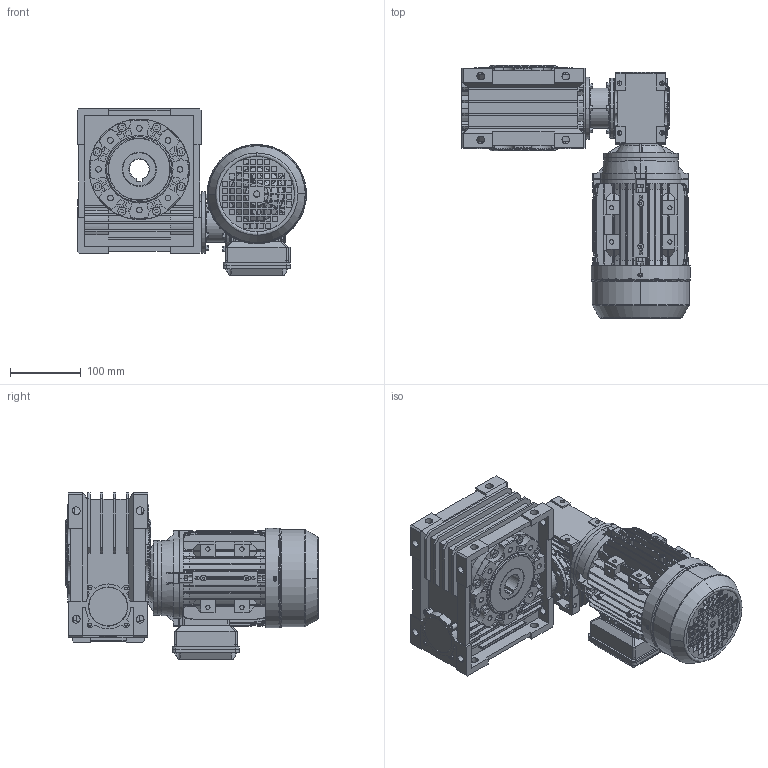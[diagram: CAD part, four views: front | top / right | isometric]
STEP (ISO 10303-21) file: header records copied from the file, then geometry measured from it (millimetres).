
FILE_DESCRIPTION (( 'STEP AP203' ), '1' );
FILE_NAME ('CMRV075-040-MX71.STEP', '2018-12-13T09:16:36', ( '' ), ( '' ), 'SwSTEP 2.0', 'SolidWorks 2012', '' );
FILE_SCHEMA (( 'CONFIG_CONTROL_DESIGN' ));
Length unit declared in the file: millimetre
Products named in the file (18): CMRV075-040-MX71; MX71_B14; Lüfterhaube_MS71; L黤terfl黦el_MS71; Klemmkastenoberteil_MS71; Klemmenkastenunterteil_MS71; B14-Flansch_MS71; B-Lagerschild_MS71; Gehäuse_MS71L; FCENDK40-75-71B14-BS1; 8_1; 7_1; 6_1; 5_1; 4_1; 3_1; 2; 9_1
Assembly tree (17 placements, depth 3):
  CMRV075-040-MX71
    FCENDK40-75-71B14-BS1
      9_1
      2
      3_1
      4_1
      5_1
      6_1
      7_1
      8_1
    MX71_B14
      Gehäuse_MS71L
      B-Lagerschild_MS71
      B14-Flansch_MS71
      Klemmenkastenunterteil_MS71
      Klemmkastenoberteil_MS71
      L黤terfl黦el_MS71
      Lüfterhaube_MS71
Bounding box: 322.5 x 356.21 x 236 mm (x, y, z)
Volume: 4669174.7 mm3; surface area: 1024464.2 mm2
Topology: 15 solids, 15 shells, 3974 faces, 10727 edges, 7039 vertices
Faces by surface type: plane 2179, cylinder 1367, cone 274, bspline 150, torus 4
Entity records: 143380 total; most frequent: CARTESIAN_POINT 42257, ORIENTED_EDGE 21442, DIRECTION 19623, EDGE_CURVE 10721, VERTEX_POINT 7043, AXIS2_PLACEMENT_3D 6610, LINE 6403, VECTOR 6403
